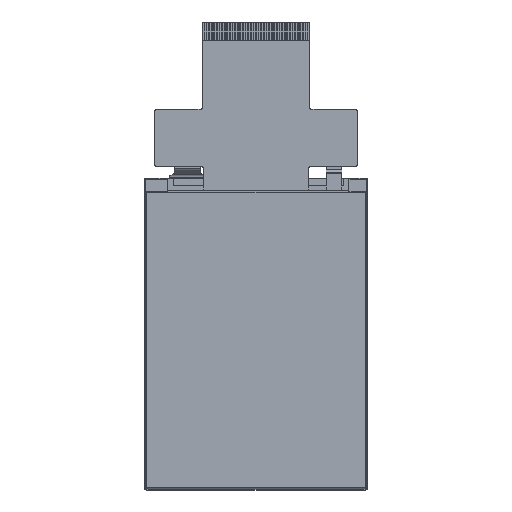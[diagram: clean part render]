
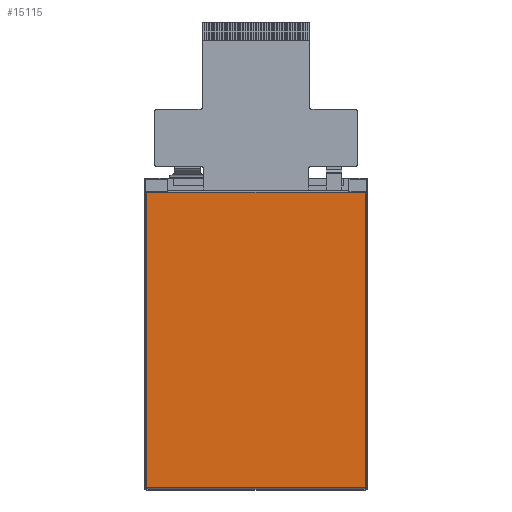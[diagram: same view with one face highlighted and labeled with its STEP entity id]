
A CAD part, front view. The second image highlights one B-rep face of the part: STEP entity #15115.
In plain terms, the highlighted planar face has unit normal (0, -1, 0).
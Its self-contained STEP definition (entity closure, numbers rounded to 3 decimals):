
#17 = VECTOR ( 'NONE', #4290, 1000. ) ;
#255 = CARTESIAN_POINT ( 'NONE',  ( 0.01, -0.2, -59.261 ) ) ;
#948 = ORIENTED_EDGE ( 'NONE', *, *, #8249, .T. ) ;
#963 = CARTESIAN_POINT ( 'NONE',  ( 0., -0.2, 0. ) ) ;
#1170 = EDGE_CURVE ( 'NONE', #10640, #10037, #9478, .T. ) ;
#1474 = CARTESIAN_POINT ( 'NONE',  ( 0., -0.2, -59.21 ) ) ;
#1829 = AXIS2_PLACEMENT_3D ( 'NONE', #963, #13817, #11354 ) ;
#1977 = CARTESIAN_POINT ( 'NONE',  ( 42., -0.2, 0. ) ) ;
#2716 = ORIENTED_EDGE ( 'NONE', *, *, #6015, .T. ) ;
#3042 = VECTOR ( 'NONE', #9879, 1000. ) ;
#3205 = VECTOR ( 'NONE', #12004, 1000. ) ;
#4290 = DIRECTION ( 'NONE',  ( 1., 0., 0. ) ) ;
#5105 = LINE ( 'NONE', #14430, #3042 ) ;
#5169 = CARTESIAN_POINT ( 'NONE',  ( 0.072, -0.2, -59.31 ) ) ;
#5954 = ORIENTED_EDGE ( 'NONE', *, *, #6024, .T. ) ;
#6011 = CARTESIAN_POINT ( 'NONE',  ( 0., -0.2, -59.237 ) ) ;
#6015 = EDGE_CURVE ( 'NONE', #13332, #10444, #8534, .T. ) ;
#6024 = EDGE_CURVE ( 'NONE', #10037, #13332, #11219, .T. ) ;
#6174 = CARTESIAN_POINT ( 'NONE',  ( 0., -0.2, -2.53 ) ) ;
#6575 = CARTESIAN_POINT ( 'NONE',  ( 42., -0.2, -2.53 ) ) ;
#7147 = CARTESIAN_POINT ( 'NONE',  ( 42., -0.2, -59.31 ) ) ;
#7745 = CARTESIAN_POINT ( 'NONE',  ( 0., -0.2, -59.31 ) ) ;
#8249 = EDGE_CURVE ( 'NONE', #11492, #10640, #9310, .T. ) ;
#8296 = CARTESIAN_POINT ( 'NONE',  ( 0., -0.2, 0. ) ) ;
#8365 = DIRECTION ( 'NONE',  ( 0., 0., -1. ) ) ;
#8534 = LINE ( 'NONE', #1977, #3205 ) ;
#9162 = VECTOR ( 'NONE', #8365, 1000. ) ;
#9261 = CARTESIAN_POINT ( 'NONE',  ( 0., -0.2, -59.21 ) ) ;
#9310 = LINE ( 'NONE', #8296, #9162 ) ;
#9478 = B_SPLINE_CURVE_WITH_KNOTS ( 'NONE', 3,
 ( #1474, #6011, #255, #13329, #5169, #10713 ),
 .UNSPECIFIED., .F., .F.,
 ( 4, 2, 4 ),
 ( 0., 0.5, 1. ),
 .UNSPECIFIED. ) ;
#9879 = DIRECTION ( 'NONE',  ( -1., 0., 0. ) ) ;
#10037 = VERTEX_POINT ( 'NONE', #10059 ) ;
#10059 = CARTESIAN_POINT ( 'NONE',  ( 0.1, -0.2, -59.31 ) ) ;
#10391 = ORIENTED_EDGE ( 'NONE', *, *, #1170, .T. ) ;
#10444 = VERTEX_POINT ( 'NONE', #6575 ) ;
#10640 = VERTEX_POINT ( 'NONE', #9261 ) ;
#10713 = CARTESIAN_POINT ( 'NONE',  ( 0.1, -0.2, -59.31 ) ) ;
#11219 = LINE ( 'NONE', #7745, #17 ) ;
#11354 = DIRECTION ( 'NONE',  ( 0., 0., -1. ) ) ;
#11478 = EDGE_CURVE ( 'NONE', #10444, #11492, #5105, .T. ) ;
#11492 = VERTEX_POINT ( 'NONE', #6174 ) ;
#11575 = FACE_OUTER_BOUND ( 'NONE', #14390, .T. ) ;
#12004 = DIRECTION ( 'NONE',  ( 0., 0., 1. ) ) ;
#13329 = CARTESIAN_POINT ( 'NONE',  ( 0.048, -0.2, -59.3 ) ) ;
#13332 = VERTEX_POINT ( 'NONE', #7147 ) ;
#13451 = ORIENTED_EDGE ( 'NONE', *, *, #11478, .T. ) ;
#13742 = PLANE ( 'NONE',  #1829 ) ;
#13817 = DIRECTION ( 'NONE',  ( 0., -1., 0. ) ) ;
#14390 = EDGE_LOOP ( 'NONE', ( #5954, #2716, #13451, #948, #10391 ) ) ;
#14430 = CARTESIAN_POINT ( 'NONE',  ( 0., -0.2, -2.53 ) ) ;
#15115 = ADVANCED_FACE ( 'NONE', ( #11575 ), #13742, .T. ) ;
